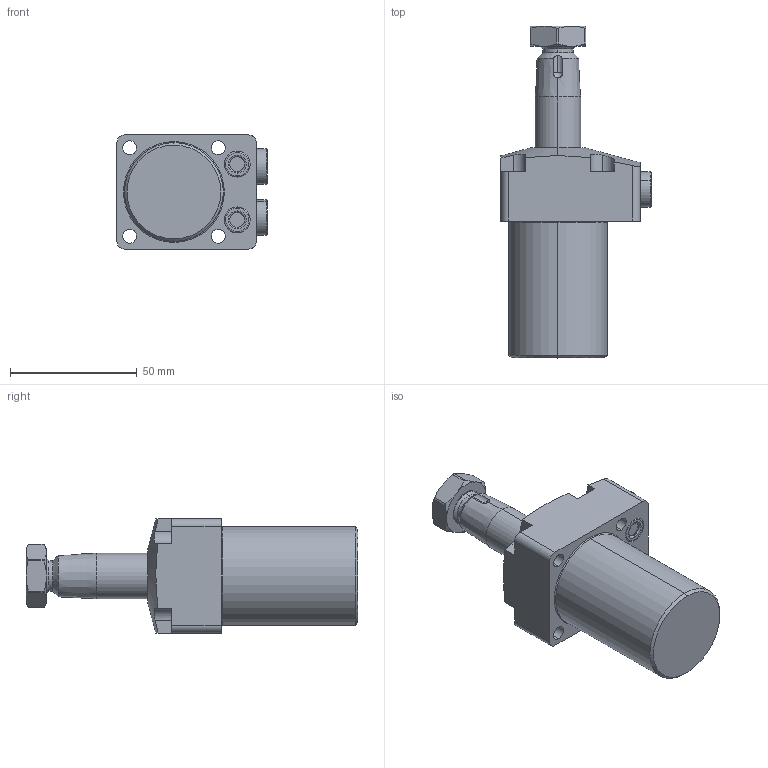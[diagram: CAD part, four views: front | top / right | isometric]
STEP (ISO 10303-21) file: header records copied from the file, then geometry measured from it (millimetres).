
FILE_DESCRIPTION(/* description */ (''),/* implementation_level */ '2;1');
FILE_NAME(/* name */ 'TRC02-L.stp',/* time_stamp */ '2025-01-04T08:35:37+08:00',/* author */ (''),/* organization */ (''),/* preprocessor_version */ 'ST-DEVELOPER v16.7',/* originating_system */ 'SIEMENS PLM Software NX 12.0',/* authorisation */ '');
FILE_SCHEMA (('AUTOMOTIVE_DESIGN { 1 0 10303 214 3 1 1 1 }'));
Length unit declared in the file: millimetre
Products named in the file (5): TRC02-L-01; TRC02-L-02; TRC02-L-03; TRC02-L-04; TRC02-L_stp
Assembly tree (5 placements, depth 2):
  TRC02-L_stp
    TRC02-L-04  x2
    TRC02-L-03
    TRC02-L-02
    TRC02-L-01
Bounding box: 59.3 x 131 x 45 mm (x, y, z)
Volume: 133880.8 mm3; surface area: 25930.8 mm2
Topology: 5 solids, 7 shells, 203 faces, 457 edges, 280 vertices
Faces by surface type: cylinder 73, plane 67, cone 40, torus 22, sphere 1
Entity records: 5354 total; most frequent: CARTESIAN_POINT 1094, DIRECTION 922, ORIENTED_EDGE 820, EDGE_CURVE 410, AXIS2_PLACEMENT_3D 378, VERTEX_POINT 252, EDGE_LOOP 206, CIRCLE 191
